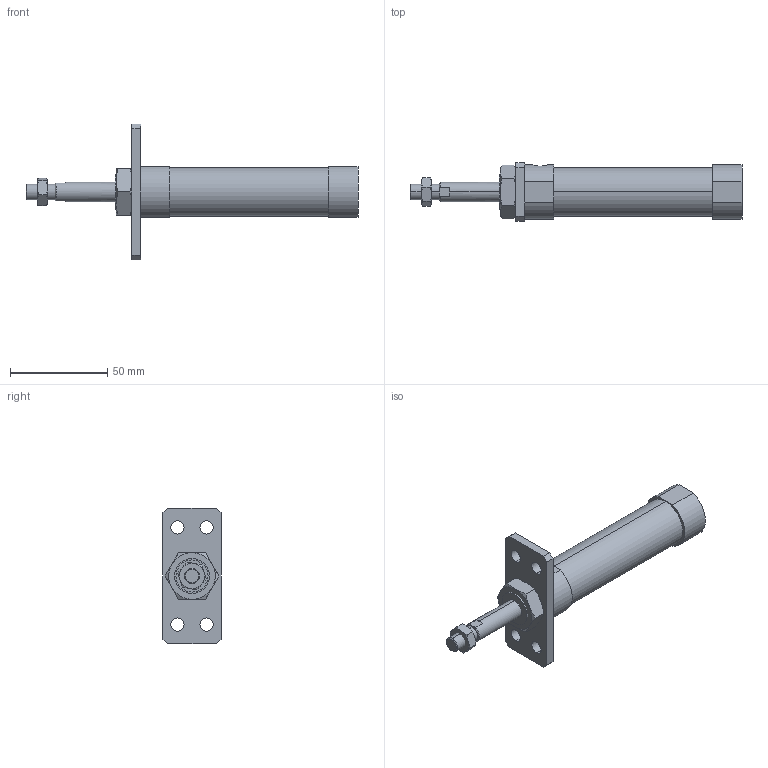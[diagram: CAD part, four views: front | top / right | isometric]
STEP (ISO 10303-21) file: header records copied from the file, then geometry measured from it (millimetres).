
FILE_DESCRIPTION (( 'STEP AP203' ), '1' );
FILE_NAME ('JGND0-20-25-A.STEP', '2016-08-04T02:03:39', ( '' ), ( '' ), 'SwSTEP 2.0', 'SolidWorks 2014', '' );
FILE_SCHEMA (( 'CONFIG_CONTROL_DESIGN' ));
Length unit declared in the file: millimetre
Products named in the file (5): J#2-20-A; JGND0-20-25-A; J#0-20-25(P)
Assembly tree (4 placements, depth 2):
  JGND0-20-25-A
    J#0-20-25(P)
    (unnamed)
    (unnamed)
    J#2-20-A
Bounding box: 171 x 30 x 70 mm (x, y, z)
Volume: 74326.7 mm3; surface area: 19916 mm2
Topology: 4 solids, 4 shells, 101 faces, 230 edges, 144 vertices
Faces by surface type: plane 43, cylinder 30, torus 24, cone 4
Entity records: 3663 total; most frequent: CARTESIAN_POINT 872, DIRECTION 482, ORIENTED_EDGE 460, EDGE_CURVE 230, AXIS2_PLACEMENT_3D 198, VERTEX_POINT 144, EDGE_LOOP 122, ADVANCED_FACE 101
